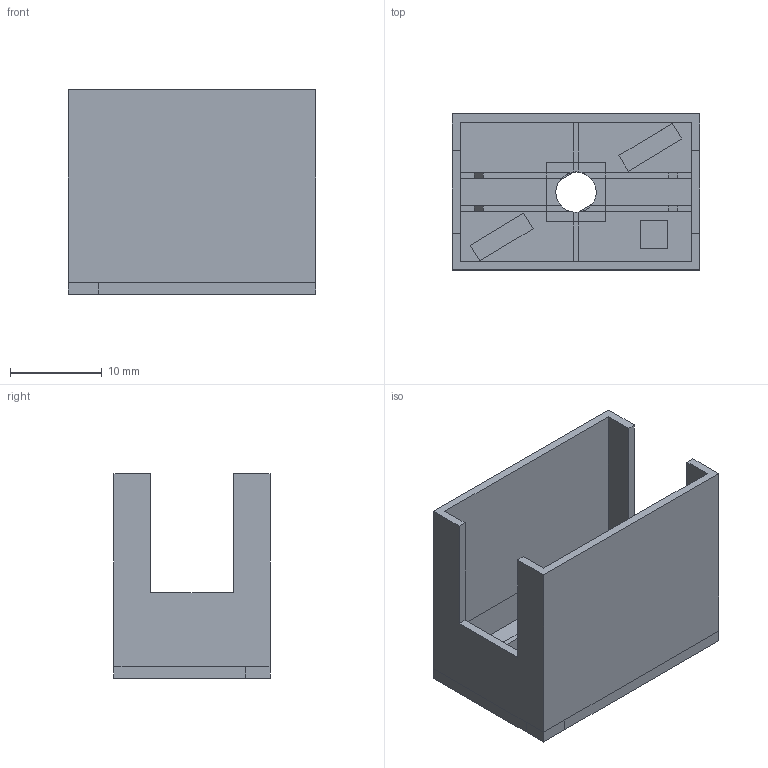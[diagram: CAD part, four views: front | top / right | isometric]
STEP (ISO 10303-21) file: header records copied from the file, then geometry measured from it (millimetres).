
FILE_DESCRIPTION(('FreeCAD Model'),'2;1');
FILE_NAME('Open CASCADE Shape Model','2025-03-10T19:20:15',(''),(''), 'Open CASCADE STEP processor 7.8','FreeCAD','Unknown');
FILE_SCHEMA(('AUTOMOTIVE_DESIGN { 1 0 10303 214 1 1 1 1 }'));
Length unit declared in the file: millimetre
Products named in the file (7): Diagonal_mit_LED; Body; Fahrstrasse_1; Fahrstrasse_2; Ausleuchtung_1; Ausleuchtung_2; Ausleuchtung_LED
Assembly tree (6 placements, depth 2):
  Diagonal_mit_LED
    Body
    Fahrstrasse_1
    Fahrstrasse_2
    Ausleuchtung_1
    Ausleuchtung_2
    Ausleuchtung_LED
Bounding box: 27 x 17 x 22.3 mm (x, y, z)
Volume: 2381.6 mm3; surface area: 4839.2 mm2
Topology: 6 solids, 6 shells, 149 faces, 369 edges, 230 vertices
Faces by surface type: plane 146, cylinder 3
Full cylindrical faces by diameter (mm): 4.4 x1
Entity records: 4478 total; most frequent: CARTESIAN_POINT 755, ORIENTED_EDGE 738, DIRECTION 705, EDGE_CURVE 369, LINE 345, VECTOR 345, VERTEX_POINT 230, AXIS2_PLACEMENT_3D 180
